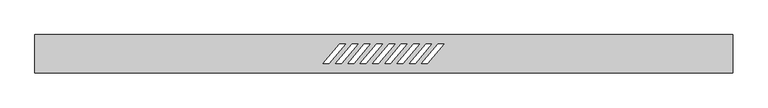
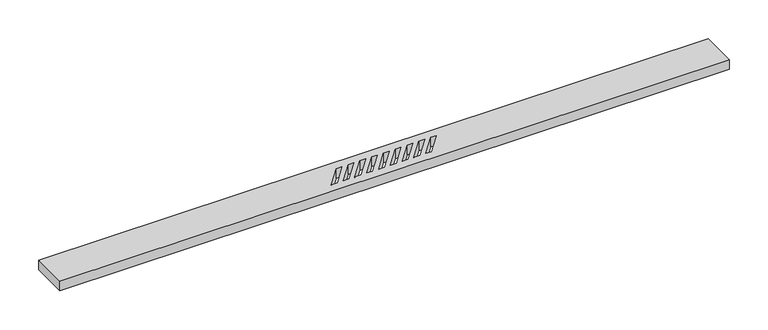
"""IFC4 building model written with IfcOpenShell, lengths in millimetres: sanitary terminal geometry, PF_UN_ShowerDrain S+_ACO : watertrap H=30."""

from ifc_helpers import new_model, si_unit, frame, origin, place, context, project, spatial, polyline, outline, extrude, source, transform, mapped, element, save


def sanitary_terminal_e4b8e917(model_context):
    return source(origin(), model_context, "Body", "SweptSolid", [
        extrude(outline(polyline([(500.0, 27.5), (500.0, -27.5), (-500.0, -27.5), (-500.0, 27.5), (500.0, 27.5)]), holes=[polyline([(7.3049166, 14.0), (-16.1898731, -14.0), (-7.7047257, -14.0), (15.7900639, 14.0), (7.3049166, 14.0)]), polyline([(24.927915, 14.0), (1.4331253, -14.0), (9.9182727, -14.0), (33.4130624, 14.0), (24.927915, 14.0)]), polyline([(42.5509134, 14.0), (19.0561237, -14.0), (27.5412711, -14.0), (51.0360608, 14.0), (42.5509134, 14.0)]), polyline([(60.1739118, 14.0), (36.6791221, -14.0), (45.1642695, -14.0), (68.6590592, 14.0), (60.1739118, 14.0)]), polyline([(77.7969102, 14.0), (54.3021205, -14.0), (62.7872679, -14.0), (86.2820576, 14.0), (77.7969102, 14.0)]), polyline([(-1.8329345, 14.0), (-10.3180818, 14.0), (-33.8128715, -14.0), (-25.3277241, -14.0), (-1.8329345, 14.0)]), polyline([(-19.4559329, 14.0), (-27.9410802, 14.0), (-51.4358699, -14.0), (-42.9507225, -14.0), (-19.4559329, 14.0)]), polyline([(-37.0775765, 14.0), (-45.5627238, 14.0), (-69.0575135, -14.0), (-60.5723661, -14.0), (-37.0775765, 14.0)]), polyline([(-54.7005749, 14.0), (-63.1857223, 14.0), (-86.6805119, -14.0), (-78.1953645, -14.0), (-54.7005749, 14.0)])]), frame((0.0, 0.0, -15.0), z_axis=(0.0, 0.0, 1.0), x_axis=(1.0, 0.0, 0.0)), (0.0, 0.0, 1.0), 15.0),
    ])


if __name__ == "__main__":
    model = new_model("IFC4")
    model_context = context("Model", 3, world=origin())
    ifc_project = project(units=[si_unit("LENGTHUNIT", "METRE", prefix="MILLI")], contexts=[model_context])
    site = spatial("IfcSite", under=ifc_project)
    building = spatial("IfcBuilding", under=site)
    placement = place(None, origin())
    sanitary_terminal_shape = sanitary_terminal_e4b8e917(model_context)
    element("IfcSanitaryTerminal", 1, ObjectType="PF_UN_ShowerDrain S+_ACO : watertrap H=30", at=placement, inside=building, context=model_context, shape_type="MappedRepresentation", body=[
        mapped(sanitary_terminal_shape, transform((0.0, 0.0, 0.0), x_axis=(1.0, 0.0, 0.0), y_axis=(0.0, 1.0, 0.0), z_axis=(0.0, 0.0, 1.0))),
    ])
    save(model, "model.ifc")
